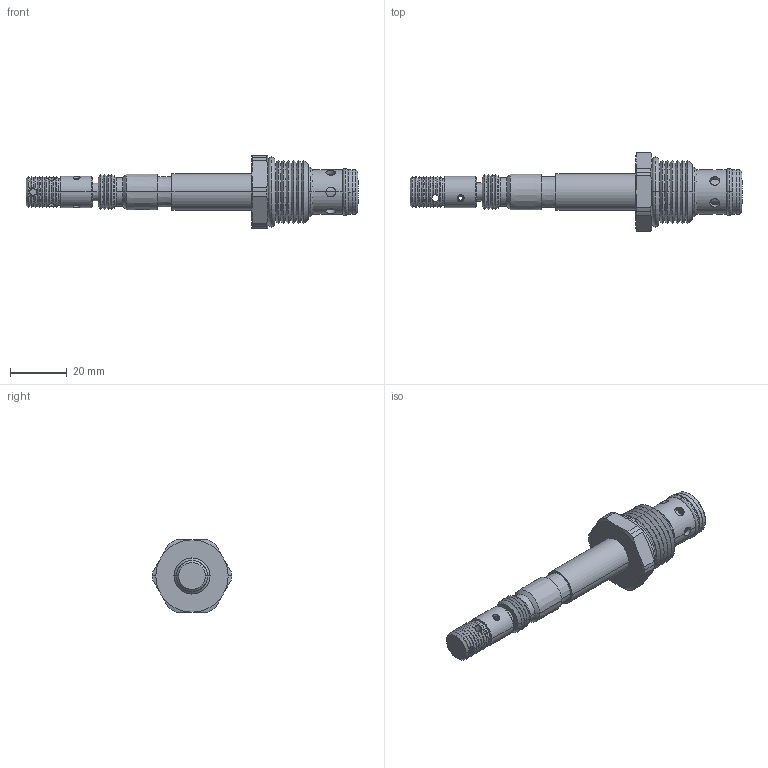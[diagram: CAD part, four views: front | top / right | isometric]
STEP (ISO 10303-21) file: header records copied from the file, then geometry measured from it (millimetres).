
FILE_DESCRIPTION((''),'2;1');
FILE_NAME('U:\Solid model CD\Solid model full\Solenoid\STEP\DES2A0M-3D Full.stp','2008-06-23T08:17:08',('Dan'),(''),'Autodesk Inventor 9','Autodesk Inventor 9','');
FILE_SCHEMA(('AUTOMOTIVE_DESIGN { 1 0 10303 214 1 1 1 1 }'));
Length unit declared in the file: inch
Products named in the file (7): DES2A0M-3D Full; DES2A0M-3D Full1; DES2A0M-3D Full2; DES2A0M-3D Full3; DES2A0M-3D Full4; DES2A0M-3D Full5; DES2A0M-3D Full6
Assembly tree (6 placements, depth 2):
  DES2A0M-3D Full
    DES2A0M-3D Full1
    DES2A0M-3D Full2
    DES2A0M-3D Full3
    DES2A0M-3D Full4
    DES2A0M-3D Full5
    DES2A0M-3D Full6
Bounding box: 116.64 x 27.76 x 25.4 mm (x, y, z)
Volume: 19435.2 mm3; surface area: 9096.2 mm2
Topology: 6 solids, 6 shells, 359 faces, 819 edges, 473 vertices
Faces by surface type: cone 250, cylinder 66, plane 31, torus 8, bspline 4
Entity records: 10914 total; most frequent: CARTESIAN_POINT 2698, DIRECTION 1794, ORIENTED_EDGE 1638, EDGE_CURVE 819, AXIS2_PLACEMENT_3D 753, VERTEX_POINT 473, EDGE_LOOP 386, CIRCLE 385
